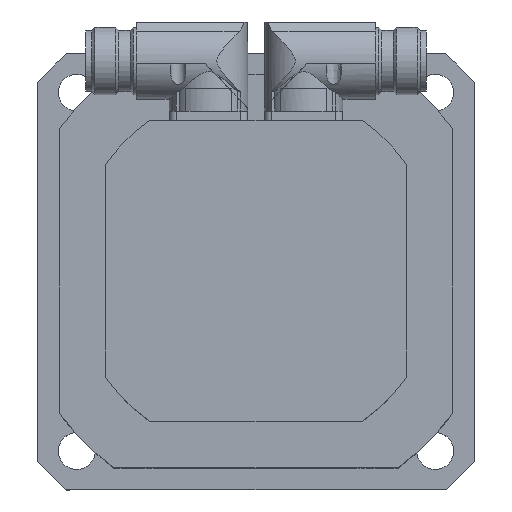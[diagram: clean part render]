
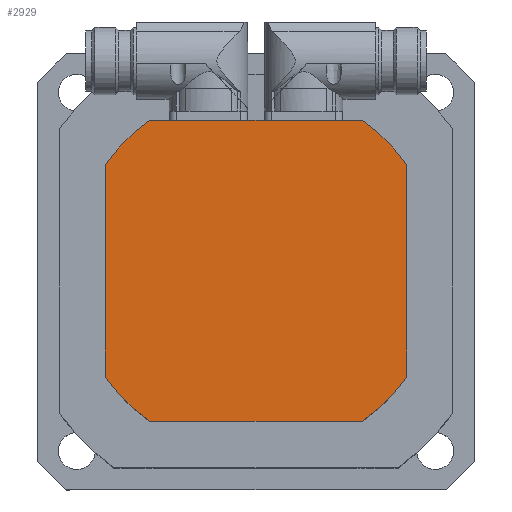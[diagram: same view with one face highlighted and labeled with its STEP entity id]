
A CAD part, top view. The second image highlights one B-rep face of the part: STEP entity #2929.
In plain terms, the highlighted planar face has unit normal (0, 0, 1).
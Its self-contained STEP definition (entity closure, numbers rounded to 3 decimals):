
#339=CIRCLE('',#3145,60.);
#340=CIRCLE('',#3147,60.);
#341=CIRCLE('',#3149,60.);
#342=CIRCLE('',#3151,60.);
#565=VERTEX_POINT('',#4716);
#566=VERTEX_POINT('',#4718);
#567=VERTEX_POINT('',#4722);
#568=VERTEX_POINT('',#4724);
#573=VERTEX_POINT('',#4740);
#574=VERTEX_POINT('',#4742);
#575=VERTEX_POINT('',#4746);
#576=VERTEX_POINT('',#4748);
#858=VECTOR('',#3697,1.);
#861=VECTOR('',#3701,1.);
#864=VECTOR('',#3719,1.);
#867=VECTOR('',#3723,1.);
#1089=LINE('',#4717,#858);
#1092=LINE('',#4723,#861);
#1095=LINE('',#4741,#864);
#1098=LINE('',#4747,#867);
#1382=EDGE_CURVE('',#566,#565,#1089,.T.);
#1385=EDGE_CURVE('',#568,#567,#1092,.T.);
#1392=EDGE_CURVE('',#574,#573,#1095,.T.);
#1395=EDGE_CURVE('',#576,#575,#1098,.T.);
#1397=EDGE_CURVE('',#568,#575,#339,.T.);
#1398=EDGE_CURVE('',#574,#567,#340,.T.);
#1399=EDGE_CURVE('',#566,#573,#341,.T.);
#1400=EDGE_CURVE('',#576,#565,#342,.T.);
#2045=ORIENTED_EDGE('',*,*,#1382,.T.);
#2046=ORIENTED_EDGE('',*,*,#1400,.F.);
#2047=ORIENTED_EDGE('',*,*,#1395,.T.);
#2048=ORIENTED_EDGE('',*,*,#1397,.F.);
#2049=ORIENTED_EDGE('',*,*,#1385,.T.);
#2050=ORIENTED_EDGE('',*,*,#1398,.F.);
#2051=ORIENTED_EDGE('',*,*,#1392,.T.);
#2052=ORIENTED_EDGE('',*,*,#1399,.F.);
#2528=EDGE_LOOP('',(#2045,#2046,#2047,#2048,#2049,#2050,#2051,#2052));
#2742=FACE_BOUND('',#2528,.T.);
#2929=ADVANCED_FACE('',(#2742),#5620,.F.);
#3145=AXIS2_PLACEMENT_3D('',#4751,#3727,#3728);
#3147=AXIS2_PLACEMENT_3D('',#4753,#3731,#3732);
#3149=AXIS2_PLACEMENT_3D('',#4755,#3735,#3736);
#3151=AXIS2_PLACEMENT_3D('',#4757,#3739,#3740);
#3152=AXIS2_PLACEMENT_3D('',#4758,#3741,$);
#3697=DIRECTION('',(0.,-1.,0.));
#3701=DIRECTION('',(0.,1.,0.));
#3719=DIRECTION('',(-1.,0.,0.));
#3723=DIRECTION('',(1.,0.,0.));
#3727=DIRECTION('',(0.,0.,-1.));
#3728=DIRECTION('',(-60.,0.,0.));
#3731=DIRECTION('',(0.,0.,-1.));
#3732=DIRECTION('',(-60.,0.,0.));
#3735=DIRECTION('',(0.,0.,-1.));
#3736=DIRECTION('',(-60.,0.,0.));
#3739=DIRECTION('',(0.,0.,-1.));
#3740=DIRECTION('',(-60.,0.,0.));
#3741=DIRECTION('',(0.,0.,-1.));
#4716=CARTESIAN_POINT('',(-49.,-34.627,45.));
#4717=CARTESIAN_POINT('',(-49.,34.627,45.));
#4718=CARTESIAN_POINT('',(-49.,34.627,45.));
#4722=CARTESIAN_POINT('',(49.,34.627,45.));
#4723=CARTESIAN_POINT('',(49.,-34.627,45.));
#4724=CARTESIAN_POINT('',(49.,-34.627,45.));
#4740=CARTESIAN_POINT('',(-34.627,49.,45.));
#4741=CARTESIAN_POINT('',(34.627,49.,45.));
#4742=CARTESIAN_POINT('',(34.627,49.,45.));
#4746=CARTESIAN_POINT('',(34.627,-49.,45.));
#4747=CARTESIAN_POINT('',(-34.627,-49.,45.));
#4748=CARTESIAN_POINT('',(-34.627,-49.,45.));
#4751=CARTESIAN_POINT('',(0.,0.,45.));
#4753=CARTESIAN_POINT('',(0.,0.,45.));
#4755=CARTESIAN_POINT('',(0.,0.,45.));
#4757=CARTESIAN_POINT('',(0.,0.,45.));
#4758=CARTESIAN_POINT('',(0.,0.,45.));
#5620=PLANE('',#3152);
